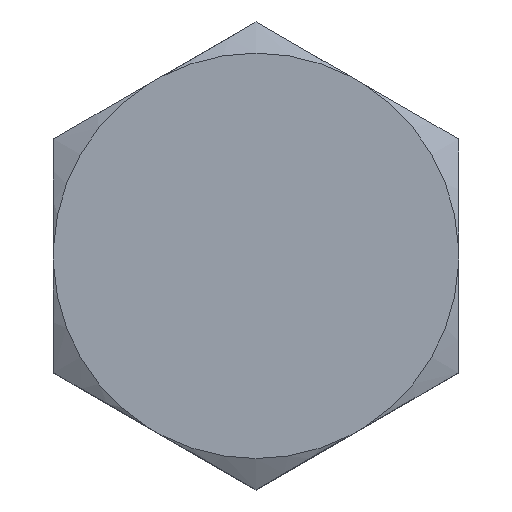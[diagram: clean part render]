
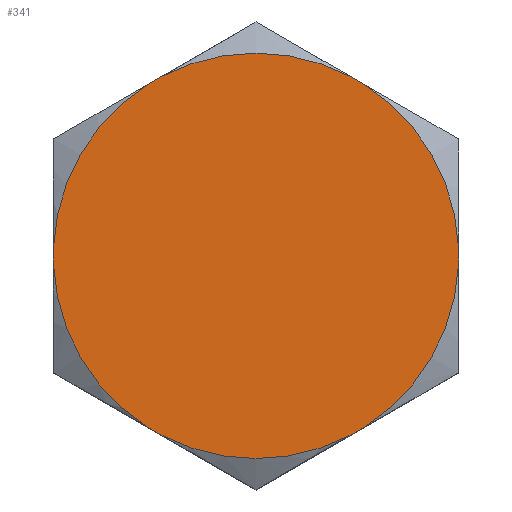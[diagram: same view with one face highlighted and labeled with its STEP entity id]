
A CAD part, top view. The second image highlights one B-rep face of the part: STEP entity #341.
In plain terms, the highlighted planar face has unit normal (0, 0, 1).
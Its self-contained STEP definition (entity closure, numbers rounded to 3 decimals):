
#31=PLANE('',#398);
#55=FACE_OUTER_BOUND('',#77,.T.);
#77=EDGE_LOOP('',(#265,#266,#267,#268,#269,#270,#271,#272,#273,#274,#275,
#276));
#91=LINE('',#593,#114);
#92=LINE('',#594,#115);
#93=LINE('',#595,#116);
#94=LINE('',#596,#117);
#95=LINE('',#597,#118);
#96=LINE('',#598,#119);
#114=VECTOR('',#467,10.);
#115=VECTOR('',#468,10.);
#116=VECTOR('',#469,10.);
#117=VECTOR('',#470,10.);
#118=VECTOR('',#471,10.);
#119=VECTOR('',#472,10.);
#139=CIRCLE('',#387,6.506);
#140=CIRCLE('',#389,6.506);
#141=CIRCLE('',#391,6.506);
#142=CIRCLE('',#393,6.506);
#143=CIRCLE('',#395,6.506);
#144=CIRCLE('',#397,6.506);
#153=VERTEX_POINT('',#528);
#154=VERTEX_POINT('',#532);
#156=VERTEX_POINT('',#539);
#157=VERTEX_POINT('',#543);
#159=VERTEX_POINT('',#550);
#160=VERTEX_POINT('',#554);
#162=VERTEX_POINT('',#561);
#163=VERTEX_POINT('',#565);
#164=VERTEX_POINT('',#571);
#166=VERTEX_POINT('',#576);
#168=VERTEX_POINT('',#583);
#169=VERTEX_POINT('',#587);
#190=EDGE_CURVE('',#153,#154,#139,.T.);
#193=EDGE_CURVE('',#156,#157,#140,.T.);
#196=EDGE_CURVE('',#159,#160,#141,.T.);
#199=EDGE_CURVE('',#162,#163,#142,.T.);
#201=EDGE_CURVE('',#166,#164,#143,.T.);
#205=EDGE_CURVE('',#168,#169,#144,.T.);
#206=EDGE_CURVE('',#169,#166,#91,.T.);
#207=EDGE_CURVE('',#164,#162,#92,.T.);
#208=EDGE_CURVE('',#163,#153,#93,.T.);
#209=EDGE_CURVE('',#154,#156,#94,.T.);
#210=EDGE_CURVE('',#157,#159,#95,.T.);
#211=EDGE_CURVE('',#160,#168,#96,.T.);
#265=ORIENTED_EDGE('',*,*,#205,.T.);
#266=ORIENTED_EDGE('',*,*,#206,.T.);
#267=ORIENTED_EDGE('',*,*,#201,.T.);
#268=ORIENTED_EDGE('',*,*,#207,.T.);
#269=ORIENTED_EDGE('',*,*,#199,.T.);
#270=ORIENTED_EDGE('',*,*,#208,.T.);
#271=ORIENTED_EDGE('',*,*,#190,.T.);
#272=ORIENTED_EDGE('',*,*,#209,.T.);
#273=ORIENTED_EDGE('',*,*,#193,.T.);
#274=ORIENTED_EDGE('',*,*,#210,.T.);
#275=ORIENTED_EDGE('',*,*,#196,.T.);
#276=ORIENTED_EDGE('',*,*,#211,.T.);
#341=ADVANCED_FACE('',(#55),#31,.T.);
#387=AXIS2_PLACEMENT_3D('',#536,#443,#444);
#389=AXIS2_PLACEMENT_3D('',#547,#447,#448);
#391=AXIS2_PLACEMENT_3D('',#558,#451,#452);
#393=AXIS2_PLACEMENT_3D('',#569,#455,#456);
#395=AXIS2_PLACEMENT_3D('',#577,#459,#460);
#397=AXIS2_PLACEMENT_3D('',#591,#463,#464);
#398=AXIS2_PLACEMENT_3D('',#592,#465,#466);
#443=DIRECTION('center_axis',(0.,0.,1.));
#444=DIRECTION('ref_axis',(0.,1.,0.));
#447=DIRECTION('center_axis',(0.,0.,1.));
#448=DIRECTION('ref_axis',(0.,1.,0.));
#451=DIRECTION('center_axis',(0.,0.,1.));
#452=DIRECTION('ref_axis',(0.,1.,0.));
#455=DIRECTION('center_axis',(0.,0.,1.));
#456=DIRECTION('ref_axis',(0.,1.,0.));
#459=DIRECTION('center_axis',(0.,0.,1.));
#460=DIRECTION('ref_axis',(0.,1.,0.));
#463=DIRECTION('center_axis',(0.,0.,1.));
#464=DIRECTION('ref_axis',(0.,1.,0.));
#465=DIRECTION('center_axis',(0.,0.,1.));
#466=DIRECTION('ref_axis',(1.,0.,0.));
#467=DIRECTION('',(0.,1.,0.));
#468=DIRECTION('',(-0.866,0.5,0.));
#469=DIRECTION('',(-0.866,-0.5,0.));
#470=DIRECTION('',(0.,-1.,0.));
#471=DIRECTION('',(0.866,-0.5,0.));
#472=DIRECTION('',(0.866,0.5,0.));
#528=CARTESIAN_POINT('',(-3.483,5.495,34.3));
#532=CARTESIAN_POINT('',(-6.5,0.269,34.3));
#536=CARTESIAN_POINT('Origin',(0.,0.,34.3));
#539=CARTESIAN_POINT('',(-6.5,-0.269,34.3));
#543=CARTESIAN_POINT('',(-3.483,-5.495,34.3));
#547=CARTESIAN_POINT('Origin',(0.,0.,34.3));
#550=CARTESIAN_POINT('',(-3.017,-5.764,34.3));
#554=CARTESIAN_POINT('',(3.017,-5.764,34.3));
#558=CARTESIAN_POINT('Origin',(0.,0.,34.3));
#561=CARTESIAN_POINT('',(3.017,5.764,34.3));
#565=CARTESIAN_POINT('',(-3.017,5.764,34.3));
#569=CARTESIAN_POINT('Origin',(0.,0.,34.3));
#571=CARTESIAN_POINT('',(3.483,5.495,34.3));
#576=CARTESIAN_POINT('',(6.5,0.269,34.3));
#577=CARTESIAN_POINT('Origin',(0.,0.,34.3));
#583=CARTESIAN_POINT('',(3.483,-5.495,34.3));
#587=CARTESIAN_POINT('',(6.5,-0.269,34.3));
#591=CARTESIAN_POINT('Origin',(0.,0.,34.3));
#592=CARTESIAN_POINT('Origin',(0.,0.,
34.3));
#593=CARTESIAN_POINT('',(6.5,3.753,34.3));
#594=CARTESIAN_POINT('',(0.,7.506,34.3));
#595=CARTESIAN_POINT('',(-6.5,3.753,34.3));
#596=CARTESIAN_POINT('',(-6.5,-3.753,34.3));
#597=CARTESIAN_POINT('',(0.,-7.506,34.3));
#598=CARTESIAN_POINT('',(6.5,-3.753,34.3));
